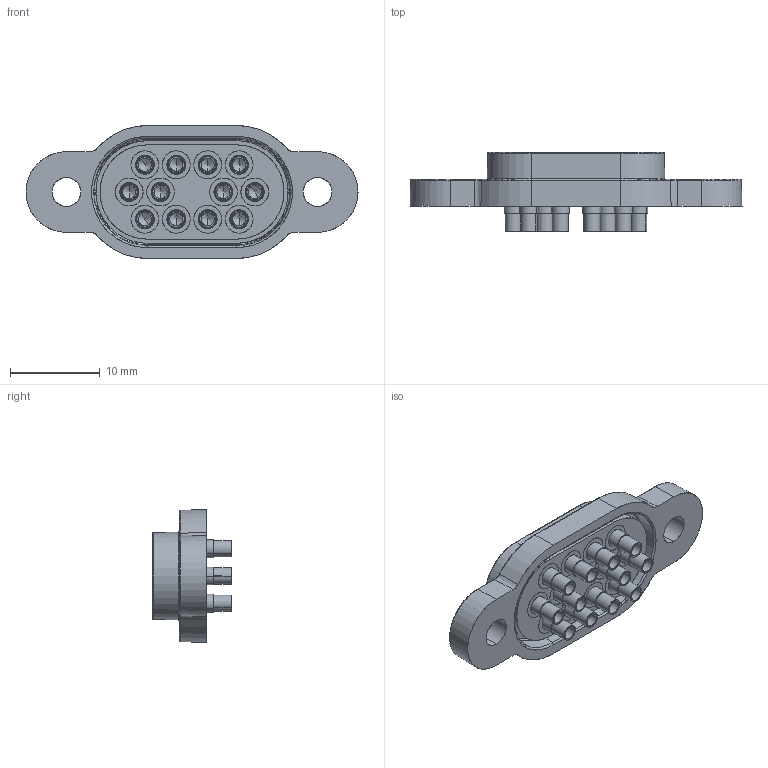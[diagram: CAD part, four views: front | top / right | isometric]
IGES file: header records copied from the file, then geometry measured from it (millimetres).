
Start section: SolidWorks IGES file using analytic representation for surfaces
Global section: file name: F:\OneDrive\Desktop\Coda\13.8\SDU-DATA-12\Completed\SDU-DATA-12-L.IGS; native system: SolidWorks 2021; preprocessor: SolidWorks 2021; author: Georg; date: 210816.160053; units: millimetre
Bounding box: 37 x 8.85 x 14.8 mm (x, y, z)
Surface area: 2880.6 mm2 (no closed solid volume)
Topology: 0 solids, 0 shells, 584 faces, 8650 edges, 8626 vertices
Faces by surface type: revolution 412, bspline 172
